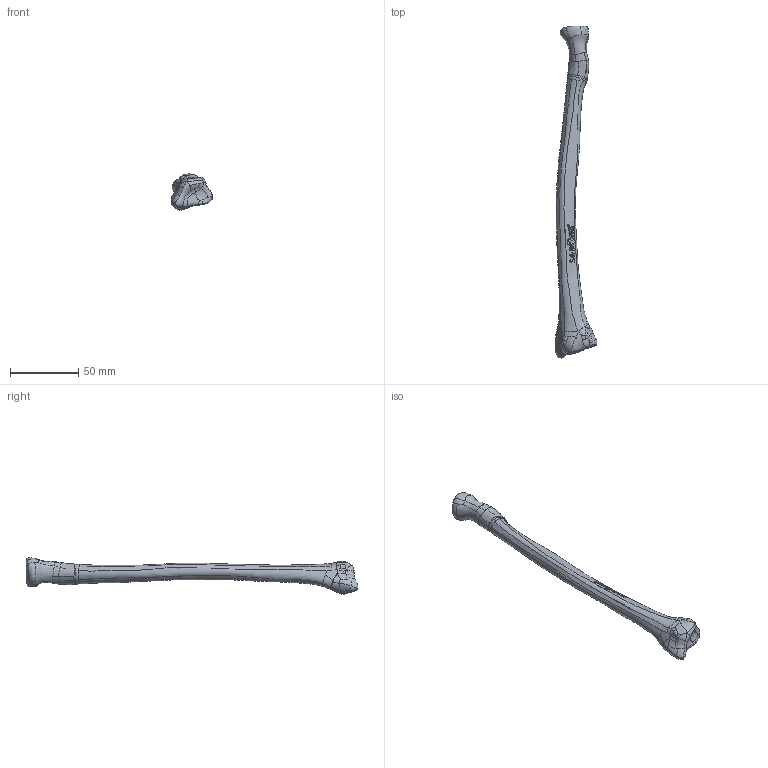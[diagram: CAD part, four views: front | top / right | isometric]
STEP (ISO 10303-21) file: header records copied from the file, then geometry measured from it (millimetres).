
FILE_DESCRIPTION (( 'STEP AP203' ), '1' );
FILE_NAME ('1012.STEP', '2025-04-30T20:06:25', ( '' ), ( '' ), 'SwSTEP 2.0', 'SolidWorks 2024', '' );
FILE_SCHEMA (( 'CONFIG_CONTROL_DESIGN' ));
Products named in the file (1): 1012
Bounding box: 30.82 x 243.9 x 26.65 mm (x, y, z)
Volume: 39422.5 mm3; surface area: 11849.4 mm2
Topology: 1 solids, 1 shells, 331 faces, 873 edges, 558 vertices
Faces by surface type: bspline 285, plane 46
Entity records: 316889 total; most frequent: CARTESIAN_POINT 310881, ORIENTED_EDGE 1746, EDGE_CURVE 873, B_SPLINE_CURVE_WITH_KNOTS 681, VERTEX_POINT 558, EDGE_LOOP 345, ADVANCED_FACE 331, FACE_OUTER_BOUND 331
